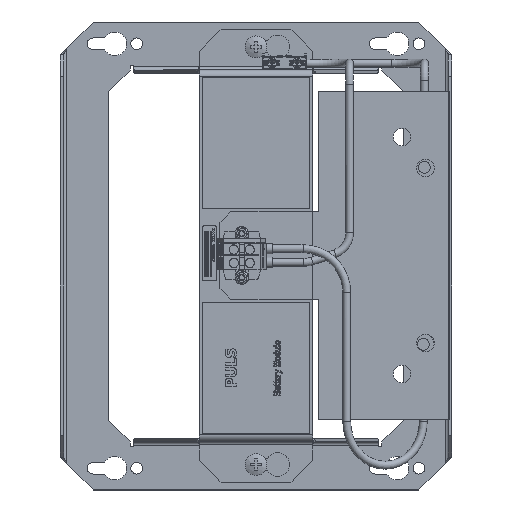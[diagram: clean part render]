
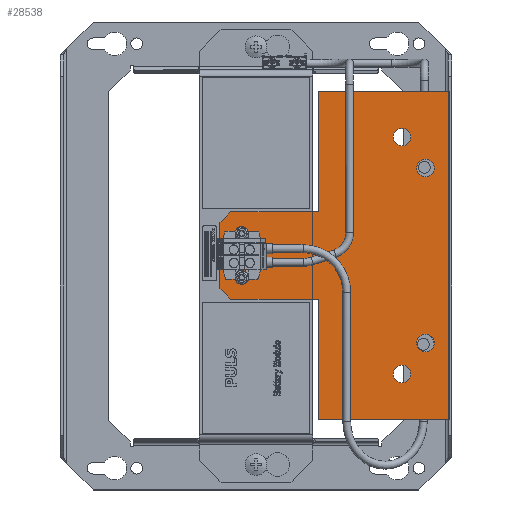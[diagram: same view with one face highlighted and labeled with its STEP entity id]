
A CAD part, top view. The second image highlights one B-rep face of the part: STEP entity #28538.
In plain terms, the highlighted planar face has unit normal (0, 0, 1).
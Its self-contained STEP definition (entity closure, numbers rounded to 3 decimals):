
#1399=FACE_BOUND('',#10765,.T.);
#1400=FACE_BOUND('',#10766,.T.);
#1401=FACE_BOUND('',#10767,.T.);
#1402=FACE_BOUND('',#10768,.T.);
#1403=FACE_BOUND('',#10769,.T.);
#1404=FACE_BOUND('',#10770,.T.);
#1672=PLANE('',#30726);
#2949=LINE('',#40172,#6040);
#2953=LINE('',#40180,#6044);
#2956=LINE('',#40186,#6047);
#2959=LINE('',#40192,#6050);
#2969=LINE('',#40227,#6060);
#2975=LINE('',#40243,#6066);
#2980=LINE('',#40254,#6071);
#2982=LINE('',#40259,#6073);
#2983=LINE('',#40260,#6074);
#2984=LINE('',#40261,#6075);
#6040=VECTOR('',#33150,10.);
#6044=VECTOR('',#33156,10.);
#6047=VECTOR('',#33161,10.);
#6050=VECTOR('',#33166,10.);
#6060=VECTOR('',#33196,10.);
#6066=VECTOR('',#33210,10.);
#6071=VECTOR('',#33223,10.);
#6073=VECTOR('',#33229,10.);
#6074=VECTOR('',#33230,10.);
#6075=VECTOR('',#33231,10.);
#9141=FACE_OUTER_BOUND('',#10764,.T.);
#10764=EDGE_LOOP('',(#20889,#20890,#20891,#20892,#20893,#20894,#20895,#20896,
#20897,#20898));
#10765=EDGE_LOOP('',(#20899,#20900));
#10766=EDGE_LOOP('',(#20901,#20902));
#10767=EDGE_LOOP('',(#20903,#20904));
#10768=EDGE_LOOP('',(#20905,#20906));
#10769=EDGE_LOOP('',(#20907,#20908));
#10770=EDGE_LOOP('',(#20909,#20910));
#12400=CIRCLE('',#30708,1.5);
#12401=CIRCLE('',#30709,1.5);
#12403=CIRCLE('',#30712,1.5);
#12404=CIRCLE('',#30713,1.5);
#12410=CIRCLE('',#30727,4.);
#12411=CIRCLE('',#30728,4.);
#12412=CIRCLE('',#30729,4.);
#12413=CIRCLE('',#30730,4.);
#12414=CIRCLE('',#30731,4.);
#12415=CIRCLE('',#30732,4.);
#12416=CIRCLE('',#30733,4.);
#12417=CIRCLE('',#30734,4.);
#13081=VERTEX_POINT('',#40170);
#13082=VERTEX_POINT('',#40171);
#13085=VERTEX_POINT('',#40179);
#13087=VERTEX_POINT('',#40185);
#13089=VERTEX_POINT('',#40191);
#13091=VERTEX_POINT('',#40197);
#13092=VERTEX_POINT('',#40198);
#13094=VERTEX_POINT('',#40205);
#13095=VERTEX_POINT('',#40206);
#13103=VERTEX_POINT('',#40224);
#13104=VERTEX_POINT('',#40226);
#13109=VERTEX_POINT('',#40240);
#13110=VERTEX_POINT('',#40242);
#13113=VERTEX_POINT('',#40258);
#13114=VERTEX_POINT('',#40262);
#13115=VERTEX_POINT('',#40263);
#13116=VERTEX_POINT('',#40266);
#13117=VERTEX_POINT('',#40267);
#13118=VERTEX_POINT('',#40270);
#13119=VERTEX_POINT('',#40271);
#13120=VERTEX_POINT('',#40274);
#13121=VERTEX_POINT('',#40275);
#16079=EDGE_CURVE('',#13081,#13082,#2949,.T.);
#16083=EDGE_CURVE('',#13085,#13081,#2953,.T.);
#16086=EDGE_CURVE('',#13087,#13085,#2956,.T.);
#16089=EDGE_CURVE('',#13087,#13089,#2959,.T.);
#16092=EDGE_CURVE('',#13091,#13092,#12400,.T.);
#16093=EDGE_CURVE('',#13092,#13091,#12401,.T.);
#16096=EDGE_CURVE('',#13094,#13095,#12403,.T.);
#16097=EDGE_CURVE('',#13095,#13094,#12404,.T.);
#16106=EDGE_CURVE('',#13103,#13104,#2969,.T.);
#16114=EDGE_CURVE('',#13109,#13110,#2975,.T.);
#16120=EDGE_CURVE('',#13109,#13104,#2980,.T.);
#16122=EDGE_CURVE('',#13113,#13082,#2982,.T.);
#16123=EDGE_CURVE('',#13110,#13113,#2983,.T.);
#16124=EDGE_CURVE('',#13089,#13103,#2984,.T.);
#16125=EDGE_CURVE('',#13114,#13115,#12410,.T.);
#16126=EDGE_CURVE('',#13115,#13114,#12411,.T.);
#16127=EDGE_CURVE('',#13116,#13117,#12412,.T.);
#16128=EDGE_CURVE('',#13117,#13116,#12413,.T.);
#16129=EDGE_CURVE('',#13118,#13119,#12414,.T.);
#16130=EDGE_CURVE('',#13119,#13118,#12415,.T.);
#16131=EDGE_CURVE('',#13120,#13121,#12416,.T.);
#16132=EDGE_CURVE('',#13121,#13120,#12417,.T.);
#20889=ORIENTED_EDGE('',*,*,#16079,.T.);
#20890=ORIENTED_EDGE('',*,*,#16122,.F.);
#20891=ORIENTED_EDGE('',*,*,#16123,.F.);
#20892=ORIENTED_EDGE('',*,*,#16114,.F.);
#20893=ORIENTED_EDGE('',*,*,#16120,.T.);
#20894=ORIENTED_EDGE('',*,*,#16106,.F.);
#20895=ORIENTED_EDGE('',*,*,#16124,.F.);
#20896=ORIENTED_EDGE('',*,*,#16089,.F.);
#20897=ORIENTED_EDGE('',*,*,#16086,.T.);
#20898=ORIENTED_EDGE('',*,*,#16083,.T.);
#20899=ORIENTED_EDGE('',*,*,#16092,.T.);
#20900=ORIENTED_EDGE('',*,*,#16093,.T.);
#20901=ORIENTED_EDGE('',*,*,#16096,.T.);
#20902=ORIENTED_EDGE('',*,*,#16097,.T.);
#20903=ORIENTED_EDGE('',*,*,#16125,.T.);
#20904=ORIENTED_EDGE('',*,*,#16126,.T.);
#20905=ORIENTED_EDGE('',*,*,#16127,.T.);
#20906=ORIENTED_EDGE('',*,*,#16128,.T.);
#20907=ORIENTED_EDGE('',*,*,#16129,.T.);
#20908=ORIENTED_EDGE('',*,*,#16130,.T.);
#20909=ORIENTED_EDGE('',*,*,#16131,.T.);
#20910=ORIENTED_EDGE('',*,*,#16132,.T.);
#28538=ADVANCED_FACE('',(#9141,#1399,#1400,#1401,#1402,#1403,#1404),#1672,
 .T.);
#30708=AXIS2_PLACEMENT_3D('',#40199,#33171,#33172);
#30709=AXIS2_PLACEMENT_3D('',#40200,#33173,#33174);
#30712=AXIS2_PLACEMENT_3D('',#40207,#33180,#33181);
#30713=AXIS2_PLACEMENT_3D('',#40208,#33182,#33183);
#30726=AXIS2_PLACEMENT_3D('',#40257,#33227,#33228);
#30727=AXIS2_PLACEMENT_3D('',#40264,#33232,#33233);
#30728=AXIS2_PLACEMENT_3D('',#40265,#33234,#33235);
#30729=AXIS2_PLACEMENT_3D('',#40268,#33236,#33237);
#30730=AXIS2_PLACEMENT_3D('',#40269,#33238,#33239);
#30731=AXIS2_PLACEMENT_3D('',#40272,#33240,#33241);
#30732=AXIS2_PLACEMENT_3D('',#40273,#33242,#33243);
#30733=AXIS2_PLACEMENT_3D('',#40276,#33244,#33245);
#30734=AXIS2_PLACEMENT_3D('',#40277,#33246,#33247);
#33150=DIRECTION('',(-0.707,0.707,0.));
#33156=DIRECTION('',(0.,1.,0.));
#33161=DIRECTION('',(0.707,0.707,0.));
#33166=DIRECTION('',(-1.,0.,0.));
#33171=DIRECTION('center_axis',(0.,0.,-1.));
#33172=DIRECTION('ref_axis',(1.,0.,0.));
#33173=DIRECTION('center_axis',(0.,0.,-1.));
#33174=DIRECTION('ref_axis',(1.,0.,0.));
#33180=DIRECTION('center_axis',(0.,0.,-1.));
#33181=DIRECTION('ref_axis',(1.,0.,0.));
#33182=DIRECTION('center_axis',(0.,0.,-1.));
#33183=DIRECTION('ref_axis',(1.,0.,0.));
#33196=DIRECTION('',(-1.,0.,0.));
#33210=DIRECTION('',(1.,0.,0.));
#33223=DIRECTION('',(0.,-1.,0.));
#33227=DIRECTION('center_axis',(0.,0.,1.));
#33228=DIRECTION('ref_axis',(1.,0.,0.));
#33229=DIRECTION('',(1.,0.,0.));
#33230=DIRECTION('',(0.,-1.,0.));
#33231=DIRECTION('',(0.,-1.,0.));
#33232=DIRECTION('center_axis',(0.,0.,-1.));
#33233=DIRECTION('ref_axis',(1.,0.,0.));
#33234=DIRECTION('center_axis',(0.,0.,-1.));
#33235=DIRECTION('ref_axis',(1.,0.,0.));
#33236=DIRECTION('center_axis',(0.,0.,-1.));
#33237=DIRECTION('ref_axis',(1.,0.,0.));
#33238=DIRECTION('center_axis',(0.,0.,-1.));
#33239=DIRECTION('ref_axis',(1.,0.,0.));
#33240=DIRECTION('center_axis',(0.,0.,-1.));
#33241=DIRECTION('ref_axis',(1.,0.,0.));
#33242=DIRECTION('center_axis',(0.,0.,-1.));
#33243=DIRECTION('ref_axis',(1.,0.,0.));
#33244=DIRECTION('center_axis',(0.,0.,-1.));
#33245=DIRECTION('ref_axis',(1.,0.,0.));
#33246=DIRECTION('center_axis',(0.,0.,-1.));
#33247=DIRECTION('ref_axis',(1.,0.,0.));
#40170=CARTESIAN_POINT('',(45.,15.,0.5));
#40171=CARTESIAN_POINT('',(40.,20.,0.5));
#40172=CARTESIAN_POINT('',(33.854,26.146,0.5));
#40179=CARTESIAN_POINT('',(45.,-15.,0.5));
#40180=CARTESIAN_POINT('',(45.,-7.5,0.5));
#40185=CARTESIAN_POINT('',(40.,-20.,0.5));
#40186=CARTESIAN_POINT('',(31.354,-28.646,0.5));
#40191=CARTESIAN_POINT('',(0.,-20.,0.5));
#40192=CARTESIAN_POINT('',(53.,-20.,0.5));
#40197=CARTESIAN_POINT('',(36.5,10.05,0.5));
#40198=CARTESIAN_POINT('',(33.5,10.05,0.5));
#40199=CARTESIAN_POINT('Origin',(35.,10.05,0.5));
#40200=CARTESIAN_POINT('Origin',(35.,10.05,0.5));
#40205=CARTESIAN_POINT('',(36.5,-10.05,0.5));
#40206=CARTESIAN_POINT('',(33.5,-10.05,0.5));
#40207=CARTESIAN_POINT('Origin',(35.,-10.05,0.5));
#40208=CARTESIAN_POINT('Origin',(35.,-10.05,0.5));
#40224=CARTESIAN_POINT('',(0.,-75.,0.5));
#40226=CARTESIAN_POINT('',(-59.45,-75.,0.5));
#40227=CARTESIAN_POINT('',(0.,-75.,0.5));
#40240=CARTESIAN_POINT('',(-59.45,75.,0.5));
#40242=CARTESIAN_POINT('',(0.,75.,0.5));
#40243=CARTESIAN_POINT('',(-60.,75.,0.5));
#40254=CARTESIAN_POINT('',(-59.45,-37.5,0.5));
#40257=CARTESIAN_POINT('Origin',(-14.584,0.,
0.5));
#40258=CARTESIAN_POINT('',(0.,20.,0.5));
#40259=CARTESIAN_POINT('',(0.,20.,0.5));
#40260=CARTESIAN_POINT('',(0.,75.,0.5));
#40261=CARTESIAN_POINT('',(0.,-20.,0.5));
#40262=CARTESIAN_POINT('',(-34.3,54.1,0.5));
#40263=CARTESIAN_POINT('',(-42.3,54.1,0.5));
#40264=CARTESIAN_POINT('Origin',(-38.3,54.1,0.5));
#40265=CARTESIAN_POINT('Origin',(-38.3,54.1,0.5));
#40266=CARTESIAN_POINT('',(-45.,-40.,0.5));
#40267=CARTESIAN_POINT('',(-53.,-40.,0.5));
#40268=CARTESIAN_POINT('Origin',(-49.,-40.,0.5));
#40269=CARTESIAN_POINT('Origin',(-49.,-40.,0.5));
#40270=CARTESIAN_POINT('',(-45.,40.,0.5));
#40271=CARTESIAN_POINT('',(-53.,40.,0.5));
#40272=CARTESIAN_POINT('Origin',(-49.,40.,0.5));
#40273=CARTESIAN_POINT('Origin',(-49.,40.,0.5));
#40274=CARTESIAN_POINT('',(-34.3,-54.1,0.5));
#40275=CARTESIAN_POINT('',(-42.3,-54.1,0.5));
#40276=CARTESIAN_POINT('Origin',(-38.3,-54.1,0.5));
#40277=CARTESIAN_POINT('Origin',(-38.3,-54.1,0.5));
